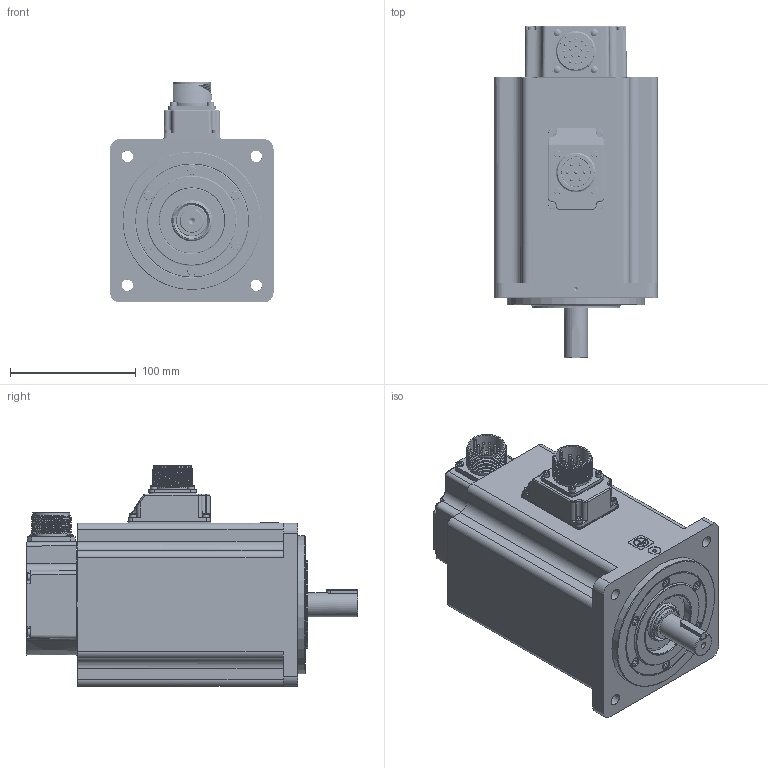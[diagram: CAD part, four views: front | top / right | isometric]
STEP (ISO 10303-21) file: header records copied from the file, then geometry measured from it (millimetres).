
FILE_DESCRIPTION( ( 'Unknown' ), '1' );
FILE_NAME( 'U:/05_Progetto TCE/010-TCE motor drawings/TCE130/Vuoti/TCE130 5D XX 3 A2 1 C3.stp', 'Unknown', ( 'Unknown' ), ( 'Unknown' ), 'PSStep 17.0.49', 'Unknown', ' ' );
FILE_SCHEMA( ( 'AUTOMOTIVE_DESIGN { 1 0 10303 214 1 1 1 1 }' ) );
Length unit declared in the file: millimetre
Products named in the file (14): 003103001510
Bounding box: 130.3 x 264 x 175.8 mm (x, y, z)
Volume: 1187103.1 mm3; surface area: 358259.9 mm2
Topology: 14 solids, 93 shells, 3005 faces, 7544 edges, 4898 vertices
Faces by surface type: plane 1573, cylinder 701, extrusion 233, cone 155, bspline 136, torus 135, sphere 72
Full cylindrical faces by diameter (mm): 2 x34, 2.224 x1, 2.4 x8, 2.459 x24, 2.5 x3, 2.6 x1, 2.8 x7, 2.9 x4, 3 x30, 3.048 x4, 3.2 x5, 3.242 x30, 3.5 x11, 3.6 x1, 3.7 x8, 3.8 x2, 4 x23, 4.134 x8, 4.5 x6, 4.7 x11, 4.917 x2, 5 x8, 5.1 x1, 5.5 x34, 5.6 x4, 5.8 x6, 7 x10, 8 x15, 8.5 x8, 10 x1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
Entity records: 127681 total; most frequent: CARTESIAN_POINT 42174, ORIENTED_EDGE 12792, DIRECTION 12790, EDGE_CURVE 6396, VERTEX_POINT 4528, AXIS2_PLACEMENT_3D 4456, EDGE_LOOP 4004, VECTOR 3878
